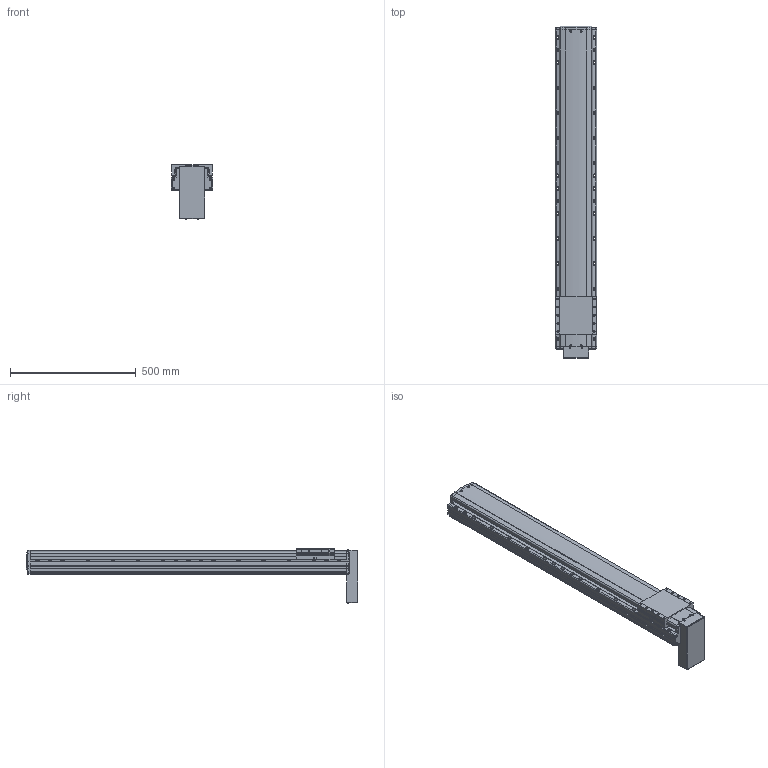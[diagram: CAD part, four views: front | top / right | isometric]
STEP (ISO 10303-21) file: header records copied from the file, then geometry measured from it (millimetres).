
FILE_DESCRIPTION(('STEP AP214'),'1');
FILE_NAME('Z:/Web/3D/PSA165/STP/PSA165-1000 (3D)/PSA165ㅁㅁ-1000PB.stp','2014-06-24T10:29:18',(' '),(' '),'Spatial InterOp 3D',' ',' ');
FILE_SCHEMA(('automotive_design'));
Length unit declared in the file: millimetre
Products named in the file (29): 스크루 : Round - M4.0 x 12.0; RRCV-PA160; BASE; 스크루 : Round - M4.0 x 10.0; RN15; Screw 20; SLIDE; FRCV; MTPL CV- PB; 스크루 : Round - M3.0 x 6.0; 1; 2
Bounding box: 165 x 1320.8 x 215.96 mm (x, y, z)
Volume: 18477198.4 mm3; surface area: 1154247.9 mm2
Topology: 29 solids, 29 shells, 2267 faces, 6084 edges, 3868 vertices
Faces by surface type: plane 1190, cylinder 754, cone 230, sphere 52, bspline 25, torus 16
Entity records: 92285 total; most frequent: CARTESIAN_POINT 16530, DIRECTION 12095, ORIENTED_EDGE 11844, EDGE_CURVE 5922, AXIS2_PLACEMENT_3D 4133, VERTEX_POINT 3868, LINE 3829, VECTOR 3829
